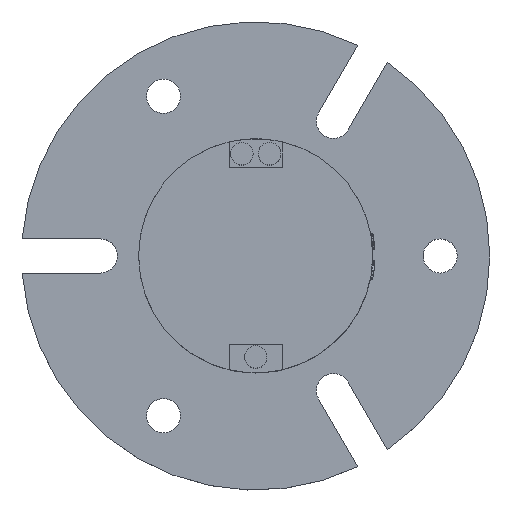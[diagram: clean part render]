
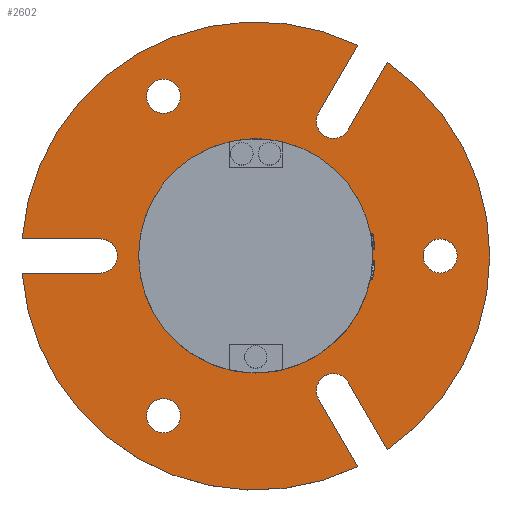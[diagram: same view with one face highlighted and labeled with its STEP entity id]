
A CAD part, top view. The second image highlights one B-rep face of the part: STEP entity #2602.
In plain terms, the highlighted planar face has unit normal (0, 0, 1).
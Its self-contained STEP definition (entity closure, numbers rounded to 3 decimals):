
#2602=ADVANCED_FACE('',(#3978,#3979,#3980,#3981,#3982),#3176,.T.);
#3176=PLANE('',#10538);
#3383=LINE('',#12219,#3525);
#3384=LINE('',#12223,#3526);
#3385=LINE('',#12227,#3527);
#3386=LINE('',#12231,#3528);
#3387=LINE('',#12235,#3529);
#3388=LINE('',#12239,#3530);
#3525=VECTOR('',#10944,1.);
#3526=VECTOR('',#10947,1.);
#3527=VECTOR('',#10950,1.);
#3528=VECTOR('',#10953,1.);
#3529=VECTOR('',#10956,1.);
#3530=VECTOR('',#10959,1.);
#3978=FACE_BOUND('',#4072,.T.);
#3979=FACE_BOUND('',#4073,.T.);
#3980=FACE_BOUND('',#4074,.T.);
#3981=FACE_BOUND('',#4075,.T.);
#3982=FACE_BOUND('',#4076,.T.);
#4072=EDGE_LOOP('',(#4712));
#4073=EDGE_LOOP('',(#4713,#4714,#4715,#4716,#4717,#4718,#4719,#4720,#4721,
#4722,#4723,#4724));
#4074=EDGE_LOOP('',(#4725));
#4075=EDGE_LOOP('',(#4726));
#4076=EDGE_LOOP('',(#4727));
#4712=ORIENTED_EDGE('',*,*,#8883,.T.);
#4713=ORIENTED_EDGE('',*,*,#8884,.F.);
#4714=ORIENTED_EDGE('',*,*,#8885,.T.);
#4715=ORIENTED_EDGE('',*,*,#8886,.T.);
#4716=ORIENTED_EDGE('',*,*,#8887,.T.);
#4717=ORIENTED_EDGE('',*,*,#8888,.F.);
#4718=ORIENTED_EDGE('',*,*,#8889,.T.);
#4719=ORIENTED_EDGE('',*,*,#8890,.T.);
#4720=ORIENTED_EDGE('',*,*,#8891,.T.);
#4721=ORIENTED_EDGE('',*,*,#8892,.F.);
#4722=ORIENTED_EDGE('',*,*,#8893,.T.);
#4723=ORIENTED_EDGE('',*,*,#8894,.T.);
#4724=ORIENTED_EDGE('',*,*,#8895,.T.);
#4725=ORIENTED_EDGE('',*,*,#8896,.F.);
#4726=ORIENTED_EDGE('',*,*,#8897,.T.);
#4727=ORIENTED_EDGE('',*,*,#8898,.T.);
#7834=VERTEX_POINT('',#12215);
#7835=VERTEX_POINT('',#12217);
#7836=VERTEX_POINT('',#12218);
#7837=VERTEX_POINT('',#12220);
#7838=VERTEX_POINT('',#12222);
#7839=VERTEX_POINT('',#12224);
#7840=VERTEX_POINT('',#12226);
#7841=VERTEX_POINT('',#12228);
#7842=VERTEX_POINT('',#12230);
#7843=VERTEX_POINT('',#12232);
#7844=VERTEX_POINT('',#12234);
#7845=VERTEX_POINT('',#12236);
#7846=VERTEX_POINT('',#12238);
#7847=VERTEX_POINT('',#12241);
#7848=VERTEX_POINT('',#12243);
#7849=VERTEX_POINT('',#12245);
#8883=EDGE_CURVE('',#7834,#7834,#10444,.T.);
#8884=EDGE_CURVE('',#7835,#7836,#10445,.T.);
#8885=EDGE_CURVE('',#7835,#7837,#3383,.T.);
#8886=EDGE_CURVE('',#7837,#7838,#10446,.T.);
#8887=EDGE_CURVE('',#7838,#7839,#3384,.T.);
#8888=EDGE_CURVE('',#7840,#7839,#10447,.T.);
#8889=EDGE_CURVE('',#7840,#7841,#3385,.T.);
#8890=EDGE_CURVE('',#7841,#7842,#10448,.T.);
#8891=EDGE_CURVE('',#7842,#7843,#3386,.T.);
#8892=EDGE_CURVE('',#7844,#7843,#10449,.T.);
#8893=EDGE_CURVE('',#7844,#7845,#3387,.T.);
#8894=EDGE_CURVE('',#7845,#7846,#10450,.T.);
#8895=EDGE_CURVE('',#7846,#7836,#3388,.T.);
#8896=EDGE_CURVE('',#7847,#7847,#10451,.T.);
#8897=EDGE_CURVE('',#7848,#7848,#10452,.T.);
#8898=EDGE_CURVE('',#7849,#7849,#10453,.T.);
#10444=CIRCLE('',#10528,1.6);
#10445=CIRCLE('',#10529,22.);
#10446=CIRCLE('',#10530,1.6);
#10447=CIRCLE('',#10531,22.);
#10448=CIRCLE('',#10532,1.6);
#10449=CIRCLE('',#10533,22.);
#10450=CIRCLE('',#10534,1.6);
#10451=CIRCLE('',#10535,11.);
#10452=CIRCLE('',#10536,1.6);
#10453=CIRCLE('',#10537,1.6);
#10528=AXIS2_PLACEMENT_3D('',#12214,#10940,#10941);
#10529=AXIS2_PLACEMENT_3D('',#12216,#10942,#10943);
#10530=AXIS2_PLACEMENT_3D('',#12221,#10945,#10946);
#10531=AXIS2_PLACEMENT_3D('',#12225,#10948,#10949);
#10532=AXIS2_PLACEMENT_3D('',#12229,#10951,#10952);
#10533=AXIS2_PLACEMENT_3D('',#12233,#10954,#10955);
#10534=AXIS2_PLACEMENT_3D('',#12237,#10957,#10958);
#10535=AXIS2_PLACEMENT_3D('',#12240,#10960,#10961);
#10536=AXIS2_PLACEMENT_3D('',#12242,#10962,#10963);
#10537=AXIS2_PLACEMENT_3D('',#12244,#10964,#10965);
#10538=AXIS2_PLACEMENT_3D('',#12246,#10966,#10967);
#10940=DIRECTION('',(0.,0.,-1.));
#10941=DIRECTION('',(1.,0.,0.));
#10942=DIRECTION('',(0.,0.,-1.));
#10943=DIRECTION('',(1.,0.,0.));
#10944=DIRECTION('',(1.,0.,0.));
#10945=DIRECTION('',(0.,0.,-1.));
#10946=DIRECTION('',(1.,0.,0.));
#10947=DIRECTION('',(-1.,0.,0.));
#10948=DIRECTION('',(0.,0.,-1.));
#10949=DIRECTION('',(1.,0.,0.));
#10950=DIRECTION('',(-0.5,0.866,0.));
#10951=DIRECTION('',(0.,0.,-1.));
#10952=DIRECTION('',(-0.5,0.866,0.));
#10953=DIRECTION('',(0.5,-0.866,0.));
#10954=DIRECTION('',(0.,0.,-1.));
#10955=DIRECTION('',(1.,0.,0.));
#10956=DIRECTION('',(-0.5,-0.866,0.));
#10957=DIRECTION('',(0.,0.,-1.));
#10958=DIRECTION('',(-0.5,-0.866,0.));
#10959=DIRECTION('',(0.5,0.866,0.));
#10960=DIRECTION('',(0.,0.,1.));
#10961=DIRECTION('',(1.,0.,0.));
#10962=DIRECTION('',(0.,0.,-1.));
#10963=DIRECTION('',(-0.5,0.866,0.));
#10964=DIRECTION('',(0.,0.,-1.));
#10965=DIRECTION('',(-0.5,-0.866,0.));
#10966=DIRECTION('',(0.,0.,1.));
#10967=DIRECTION('',(1.,0.,0.));
#12214=CARTESIAN_POINT('',(17.33,0.,2.5));
#12215=CARTESIAN_POINT('',(18.93,0.,2.5));
#12216=CARTESIAN_POINT('',(0.,0.,2.5));
#12217=CARTESIAN_POINT('',(-21.942,1.6,2.5));
#12218=CARTESIAN_POINT('',(9.585,19.802,2.5));
#12219=CARTESIAN_POINT('',(-23.1,1.6,2.5));
#12220=CARTESIAN_POINT('',(-14.6,1.6,2.5));
#12221=CARTESIAN_POINT('',(-14.6,0.,2.5));
#12222=CARTESIAN_POINT('',(-14.6,-1.6,2.5));
#12223=CARTESIAN_POINT('',(-23.1,-1.6,2.5));
#12224=CARTESIAN_POINT('',(-21.942,-1.6,2.5));
#12225=CARTESIAN_POINT('',(0.,0.,2.5));
#12226=CARTESIAN_POINT('',(9.585,-19.802,2.5));
#12227=CARTESIAN_POINT('',(10.164,-20.805,2.5));
#12228=CARTESIAN_POINT('',(5.914,-13.444,2.5));
#12229=CARTESIAN_POINT('',(7.3,-12.644,2.5));
#12230=CARTESIAN_POINT('',(8.686,-11.844,2.5));
#12231=CARTESIAN_POINT('',(12.936,-19.205,2.5));
#12232=CARTESIAN_POINT('',(12.357,-18.202,2.5));
#12233=CARTESIAN_POINT('',(0.,0.,2.5));
#12234=CARTESIAN_POINT('',(12.357,18.202,2.5));
#12235=CARTESIAN_POINT('',(12.936,19.205,2.5));
#12236=CARTESIAN_POINT('',(8.686,11.844,2.5));
#12237=CARTESIAN_POINT('',(7.3,12.644,2.5));
#12238=CARTESIAN_POINT('',(5.914,13.444,2.5));
#12239=CARTESIAN_POINT('',(10.164,20.805,2.5));
#12240=CARTESIAN_POINT('',(0.,0.,2.5));
#12241=CARTESIAN_POINT('',(11.,0.,2.5));
#12242=CARTESIAN_POINT('',(-8.665,15.008,2.5));
#12243=CARTESIAN_POINT('',(-9.465,16.394,2.5));
#12244=CARTESIAN_POINT('',(-8.665,-15.008,2.5));
#12245=CARTESIAN_POINT('',(-9.465,-16.394,2.5));
#12246=CARTESIAN_POINT('',(0.,0.,2.5));
